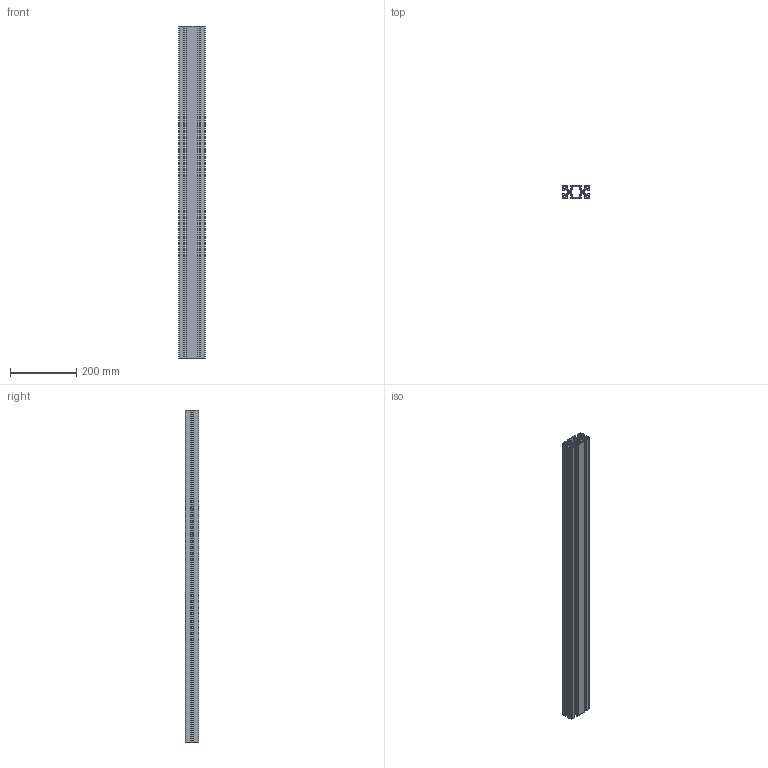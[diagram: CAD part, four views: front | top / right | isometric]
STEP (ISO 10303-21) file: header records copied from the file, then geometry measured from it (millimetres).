
FILE_DESCRIPTION((''),'2;1');
FILE_NAME('\\Dtp_2\share\iriguchi2\M8フレーム\AFS-4080L-8.stp','2014-12-01T13:01:23',('AMS8'),(''),'Autodesk Inventor 2008','Autodesk Inventor 2008','');
FILE_SCHEMA(('AUTOMOTIVE_DESIGN { 1 0 10303 214 1 1 1 1 }'));
Length unit declared in the file: millimetre
Products named in the file (1): Part51
Bounding box: 80 x 40 x 1000 mm (x, y, z)
Volume: 950960 mm3; surface area: 783359.5 mm2
Topology: 1 solids, 1 shells, 332 faces, 990 edges, 660 vertices
Faces by surface type: cylinder 190, plane 142
Full cylindrical faces by diameter (mm): 6.8 x2
Entity records: 11338 total; most frequent: DIRECTION 2034, CARTESIAN_POINT 1981, ORIENTED_EDGE 1976, EDGE_CURVE 988, AXIS2_PLACEMENT_3D 713, VERTEX_POINT 660, VECTOR 608, LINE 608
